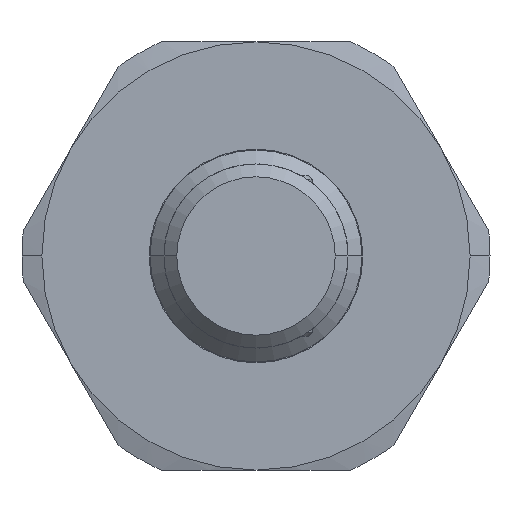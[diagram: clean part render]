
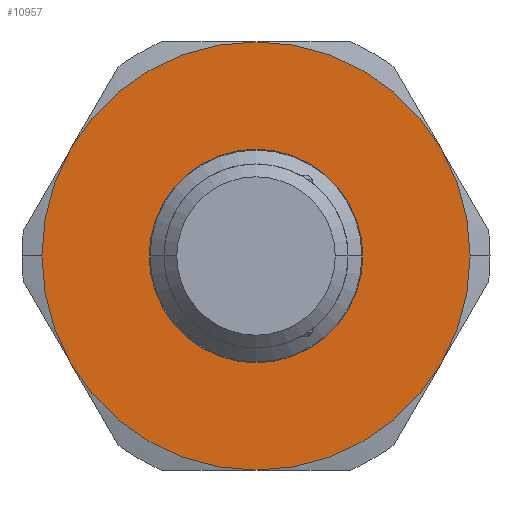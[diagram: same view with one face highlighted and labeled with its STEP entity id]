
A CAD part, left-side view. The second image highlights one B-rep face of the part: STEP entity #10957.
In plain terms, the highlighted planar face has unit normal (-1, 0, 0).
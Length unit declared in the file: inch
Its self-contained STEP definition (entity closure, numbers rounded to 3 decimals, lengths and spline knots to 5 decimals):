
#2342=CARTESIAN_POINT('',(-0.219,-0.2495,0.0));
#2343=VERTEX_POINT('',#2342);
#2352=CARTESIAN_POINT('',(-0.219,0.2495,0.));
#2353=VERTEX_POINT('',#2352);
#2354=CARTESIAN_POINT('',(-0.219,0.0,0.0));
#2355=DIRECTION('',(-1.0,0.0,0.0));
#2356=DIRECTION('',(0.0,-1.0,0.0));
#2357=AXIS2_PLACEMENT_3D('',#2354,#2355,#2356);
#2358=CIRCLE('',#2357,0.2495);
#2359=EDGE_CURVE('',#2343,#2353,#2358,.T.);
#5989=CARTESIAN_POINT('',(-0.219,-0.5,0.));
#5990=VERTEX_POINT('',#5989);
#5997=CARTESIAN_POINT('',(-0.219,-0.43301,-0.25));
#5998=VERTEX_POINT('',#5997);
#5999=CARTESIAN_POINT('',(-0.219,0.0,0.0));
#6000=DIRECTION('',(-1.0,0.0,0.0));
#6001=DIRECTION('',(0.0,1.0,0.0));
#6002=AXIS2_PLACEMENT_3D('',#5999,#6000,#6001);
#6003=CIRCLE('',#6002,0.5);
#6004=EDGE_CURVE('',#5998,#5990,#6003,.T.);
#6036=CARTESIAN_POINT('',(-0.219,0.5,0.));
#6037=VERTEX_POINT('',#6036);
#6045=CARTESIAN_POINT('',(-0.219,0.43301,-0.25));
#6046=VERTEX_POINT('',#6045);
#6060=CARTESIAN_POINT('',(-0.219,0.0,0.0));
#6061=DIRECTION('',(-1.0,0.0,0.0));
#6062=DIRECTION('',(0.0,1.0,0.0));
#6063=AXIS2_PLACEMENT_3D('',#6060,#6061,#6062);
#6064=CIRCLE('',#6063,0.5);
#6065=EDGE_CURVE('',#6037,#6046,#6064,.T.);
#10888=CARTESIAN_POINT('',(-0.219,0.0,0.0));
#10889=DIRECTION('',(1.0,0.0,0.0));
#10890=DIRECTION('',(0.0,1.0,0.0));
#10891=AXIS2_PLACEMENT_3D('',#10888,#10889,#10890);
#10892=PLANE('',#10891);
#10893=CARTESIAN_POINT('',(-0.219,0.0,-0.5));
#10894=VERTEX_POINT('',#10893);
#10895=CARTESIAN_POINT('',(-0.219,0.0,0.0));
#10896=DIRECTION('',(-1.0,0.0,0.0));
#10897=DIRECTION('',(0.0,1.0,0.0));
#10898=AXIS2_PLACEMENT_3D('',#10895,#10896,#10897);
#10899=CIRCLE('',#10898,0.5);
#10900=EDGE_CURVE('',#6046,#10894,#10899,.T.);
#10901=ORIENTED_EDGE('',*,*,#10900,.T.);
#10902=CARTESIAN_POINT('',(-0.219,0.0,0.0));
#10903=DIRECTION('',(-1.0,0.0,0.0));
#10904=DIRECTION('',(0.0,1.0,0.0));
#10905=AXIS2_PLACEMENT_3D('',#10902,#10903,#10904);
#10906=CIRCLE('',#10905,0.5);
#10907=EDGE_CURVE('',#10894,#5998,#10906,.T.);
#10908=ORIENTED_EDGE('',*,*,#10907,.T.);
#10909=ORIENTED_EDGE('',*,*,#6004,.T.);
#10910=CARTESIAN_POINT('',(-0.219,-0.43301,0.25));
#10911=VERTEX_POINT('',#10910);
#10912=CARTESIAN_POINT('',(-0.219,0.0,0.0));
#10913=DIRECTION('',(-1.0,0.0,0.0));
#10914=DIRECTION('',(0.0,1.0,0.0));
#10915=AXIS2_PLACEMENT_3D('',#10912,#10913,#10914);
#10916=CIRCLE('',#10915,0.5);
#10917=EDGE_CURVE('',#5990,#10911,#10916,.T.);
#10918=ORIENTED_EDGE('',*,*,#10917,.T.);
#10919=CARTESIAN_POINT('',(-0.219,0.0,0.5));
#10920=VERTEX_POINT('',#10919);
#10921=CARTESIAN_POINT('',(-0.219,0.0,0.0));
#10922=DIRECTION('',(-1.0,0.0,0.0));
#10923=DIRECTION('',(0.0,1.0,0.0));
#10924=AXIS2_PLACEMENT_3D('',#10921,#10922,#10923);
#10925=CIRCLE('',#10924,0.5);
#10926=EDGE_CURVE('',#10911,#10920,#10925,.T.);
#10927=ORIENTED_EDGE('',*,*,#10926,.T.);
#10928=CARTESIAN_POINT('',(-0.219,0.43301,0.25));
#10929=VERTEX_POINT('',#10928);
#10930=CARTESIAN_POINT('',(-0.219,0.0,0.0));
#10931=DIRECTION('',(-1.0,0.0,0.0));
#10932=DIRECTION('',(0.0,1.0,0.0));
#10933=AXIS2_PLACEMENT_3D('',#10930,#10931,#10932);
#10934=CIRCLE('',#10933,0.5);
#10935=EDGE_CURVE('',#10920,#10929,#10934,.T.);
#10936=ORIENTED_EDGE('',*,*,#10935,.T.);
#10937=CARTESIAN_POINT('',(-0.219,0.0,0.0));
#10938=DIRECTION('',(-1.0,0.0,0.0));
#10939=DIRECTION('',(0.0,1.0,0.0));
#10940=AXIS2_PLACEMENT_3D('',#10937,#10938,#10939);
#10941=CIRCLE('',#10940,0.5);
#10942=EDGE_CURVE('',#10929,#6037,#10941,.T.);
#10943=ORIENTED_EDGE('',*,*,#10942,.T.);
#10944=ORIENTED_EDGE('',*,*,#6065,.T.);
#10945=EDGE_LOOP('',(#10901,#10908,#10909,#10918,#10927,#10936,#10943,#10944));
#10946=FACE_OUTER_BOUND('',#10945,.T.);
#10947=ORIENTED_EDGE('',*,*,#2359,.F.);
#10948=CARTESIAN_POINT('',(-0.219,0.0,0.0));
#10949=DIRECTION('',(-1.0,0.0,0.0));
#10950=DIRECTION('',(0.0,-1.0,0.0));
#10951=AXIS2_PLACEMENT_3D('',#10948,#10949,#10950);
#10952=CIRCLE('',#10951,0.2495);
#10953=EDGE_CURVE('',#2353,#2343,#10952,.T.);
#10954=ORIENTED_EDGE('',*,*,#10953,.F.);
#10955=EDGE_LOOP('',(#10947,#10954));
#10956=FACE_BOUND('',#10955,.T.);
#10957=ADVANCED_FACE('',(#10946,#10956),#10892,.F.);
